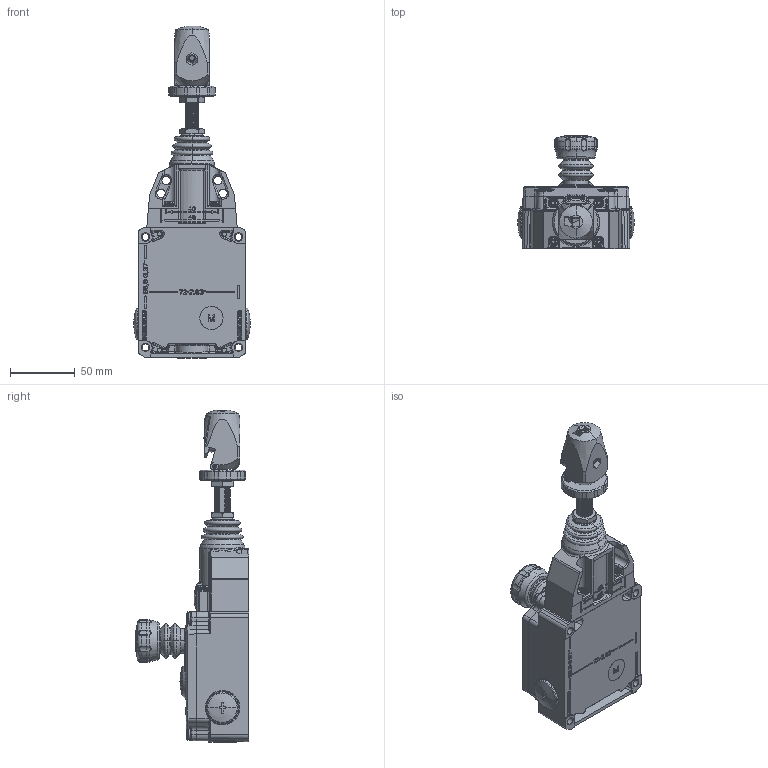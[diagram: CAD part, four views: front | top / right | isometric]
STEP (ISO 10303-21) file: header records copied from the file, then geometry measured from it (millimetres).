
FILE_DESCRIPTION((''),'2;1');
FILE_NAME('2007546','2010-07-13T',('merz'),(''),'PRO/ENGINEER BY PARAMETRIC TECHNOLOGY CORPORATION, 2009380','PRO/ENGINEER BY PARAMETRIC TECHNOLOGY CORPORATION, 2009380','');
FILE_SCHEMA(('AUTOMOTIVE_DESIGN_CC2 { 1 2 10303 214 -1 1 5 2 }'));
Products named in the file (1): 2007546
Bounding box: 90.13 x 88 x 257 mm (x, y, z)
Surface area: 80324.5 mm2
Topology: 5 solids, 93 shells, 1913 faces, 7433 edges, 5468 vertices
Faces by surface type: cylinder 664, plane 539, bspline 357, torus 159, cone 122, sphere 72
Entity records: 128160 total; most frequent: CARTESIAN_POINT 49021, ORIENTED_EDGE 11763, DIRECTION 9912, PRESENTATION_STYLE_ASSIGNMENT 7480, STYLED_ITEM 7475, CURVE_STYLE 7382, EDGE_CURVE 7378, VERTEX_POINT 5462
